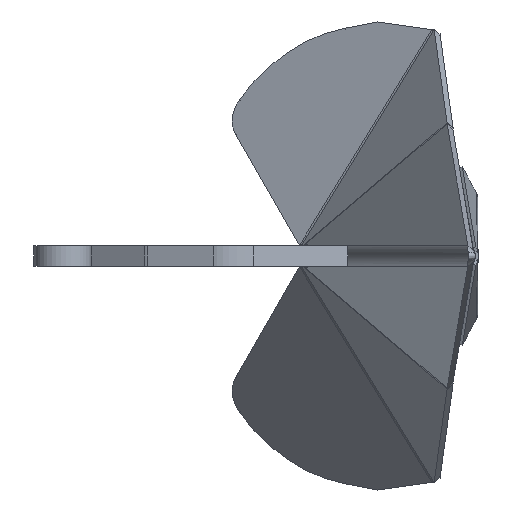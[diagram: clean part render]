
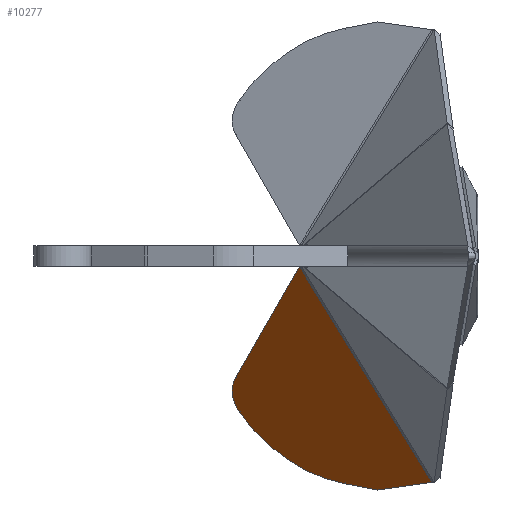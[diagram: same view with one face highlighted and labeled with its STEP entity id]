
A CAD part, left-side view. The second image highlights one B-rep face of the part: STEP entity #10277.
In plain terms, the highlighted planar face has unit normal (-0.735, 0.504, -0.454) as drawn and (-0.53, 0.243, -0.812) by its records, which use the part's own axes.
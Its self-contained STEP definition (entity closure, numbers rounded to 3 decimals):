
#9215=DIRECTION('',(-0.831,-0.338,0.441));
#9216=VECTOR('',#9215,66.672);
#9217=CARTESIAN_POINT('',(564.428,-221.176,
-108.722));
#9218=LINE('',#9217,#9216);
#9219=DIRECTION('',(-0.741,-0.598,0.305));
#9220=VECTOR('',#9219,38.079);
#9221=CARTESIAN_POINT('',(592.64,-198.39,
-120.334));
#9222=LINE('',#9221,#9220);
#9223=CARTESIAN_POINT('',(536.361,-94.109,
-52.435));
#9224=DIRECTION('',(-0.53,0.243,-0.812));
#9225=DIRECTION('',(0.843,0.049,-0.536));
#9226=AXIS2_PLACEMENT_3D('',#9223,#9224,#9225);
#9228=CARTESIAN_POINT('',(622.83,-89.038,
-107.377));
#9229=DIRECTION('',(-0.53,0.243,-0.812));
#9230=DIRECTION('',(0.405,0.914,0.009));
#9231=AXIS2_PLACEMENT_3D('',#9228,#9229,#9230);
#9233=DIRECTION('',(0.745,-0.325,-0.583));
#9234=VECTOR('',#9233,163.274);
#9235=CARTESIAN_POINT('',(515.016,-4.965,
-11.866));
#9236=LINE('',#9235,#9234);
#9237=DIRECTION('',(0.848,0.138,-0.512));
#9238=VECTOR('',#9237,3.393);
#9239=CARTESIAN_POINT('',(512.14,-5.432,
-10.128));
#9240=LINE('',#9239,#9238);
#9299=DIRECTION('',(-0.013,-0.96,-0.279));
#9300=VECTOR('',#9299,248.163);
#9301=CARTESIAN_POINT('',(512.14,-5.432,
-10.128));
#9302=LINE('',#9301,#9300);
#9502=CARTESIAN_POINT('',(515.016,-4.965,
-11.866));
#9503=CARTESIAN_POINT('',(636.605,-57.955,
-107.085));
#9504=VERTEX_POINT('',#9502);
#9505=VERTEX_POINT('',#9503);
#9506=CARTESIAN_POINT('',(651.492,-87.358,
-125.589));
#9507=VERTEX_POINT('',#9506);
#9508=CARTESIAN_POINT('',(592.64,-198.39,
-120.334));
#9509=VERTEX_POINT('',#9508);
#9510=CARTESIAN_POINT('',(564.428,-221.176,
-108.722));
#9511=VERTEX_POINT('',#9510);
#9518=CARTESIAN_POINT('',(509.024,-243.742,
-79.289));
#9519=VERTEX_POINT('',#9518);
#9542=CARTESIAN_POINT('',(512.14,-5.432,
-10.128));
#9543=VERTEX_POINT('',#9542);
#10257=CARTESIAN_POINT('',(76.661,-68.458,
255.374));
#10258=DIRECTION('',(-0.53,0.243,-0.812));
#10259=DIRECTION('',(0.848,0.138,-0.512));
#10260=AXIS2_PLACEMENT_3D('',#10257,#10258,#10259);
#10261=PLANE('',#10260);
#10263=ORIENTED_EDGE('',*,*,#10262,.F.);
#10265=ORIENTED_EDGE('',*,*,#10264,.F.);
#10267=ORIENTED_EDGE('',*,*,#10266,.F.);
#10269=ORIENTED_EDGE('',*,*,#10268,.F.);
#10271=ORIENTED_EDGE('',*,*,#10270,.F.);
#10272=ORIENTED_EDGE('',*,*,#10248,.F.);
#10274=ORIENTED_EDGE('',*,*,#10273,.T.);
#10275=EDGE_LOOP('',(#10263,#10265,#10267,#10269,#10271,#10272,#10274));
#10276=FACE_OUTER_BOUND('',#10275,.F.);
#9227=CIRCLE('',#9226,136.572);
#9232=CIRCLE('',#9231,34.);
#10248=EDGE_CURVE('',#9543,#9504,#9240,.T.);
#10262=EDGE_CURVE('',#9511,#9519,#9218,.T.);
#10264=EDGE_CURVE('',#9509,#9511,#9222,.T.);
#10266=EDGE_CURVE('',#9507,#9509,#9227,.T.);
#10268=EDGE_CURVE('',#9505,#9507,#9232,.T.);
#10270=EDGE_CURVE('',#9504,#9505,#9236,.T.);
#10273=EDGE_CURVE('',#9543,#9519,#9302,.T.);
#10277=ADVANCED_FACE('',(#10276),#10261,.T.);
